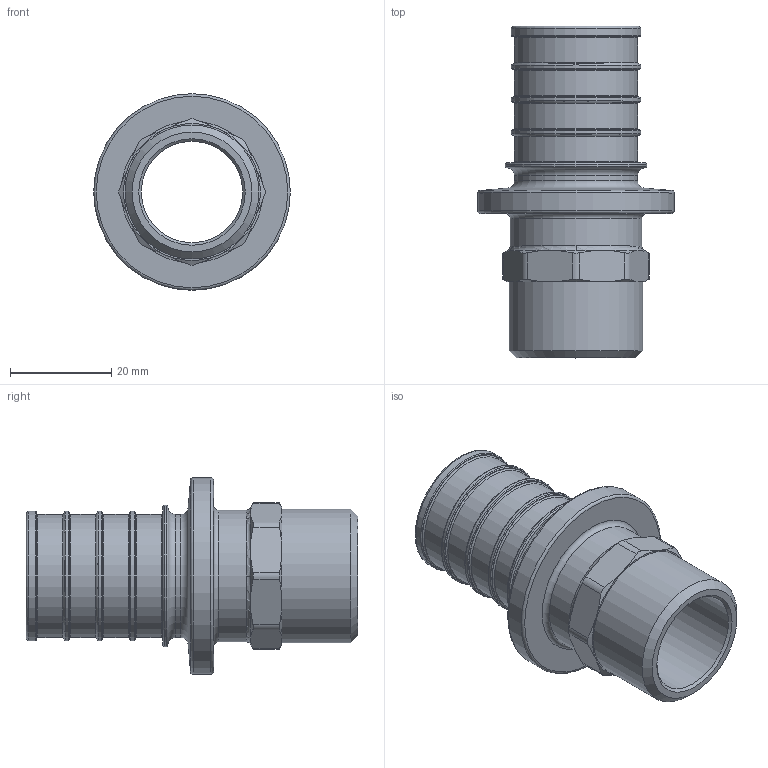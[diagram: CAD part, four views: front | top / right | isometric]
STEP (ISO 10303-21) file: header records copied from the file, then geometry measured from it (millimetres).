
FILE_DESCRIPTION(('STEP AP203'), '1');
FILE_NAME('ﾂﾐ.753137.035 - VTm.401.G.003205 ﾔ頸. 浯葢. G 3-4', '2024-01-23T13:01:43', ('Boss'), (''), 'C3D Converter', 'C3D Toolkit', '');
FILE_SCHEMA(('CONFIG_CONTROL_DESIGN'));
Length unit declared in the file: millimetre
Products named in the file (1): ВР.753137.035
Bounding box: 38.8 x 65.5 x 38.8 mm (x, y, z)
Volume: 16173.4 mm3; surface area: 11547.1 mm2
Topology: 1 solids, 1 shells, 80 faces, 183 edges, 107 vertices
Faces by surface type: torus 25, cylinder 22, plane 20, cone 13
Full cylindrical faces by diameter (mm): 20 x1, 24.3 x5, 25.5 x4, 26 x1, 26.441 x1, 27.9 x1, 38.8 x1
Entity records: 2852 total; most frequent: CARTESIAN_POINT 1311, DIRECTION 314, ORIENTED_EDGE 250, AXIS2_PLACEMENT_3D 149, EDGE_LOOP 134, EDGE_CURVE 125, VERTEX_POINT 99, ADVANCED_FACE 80
